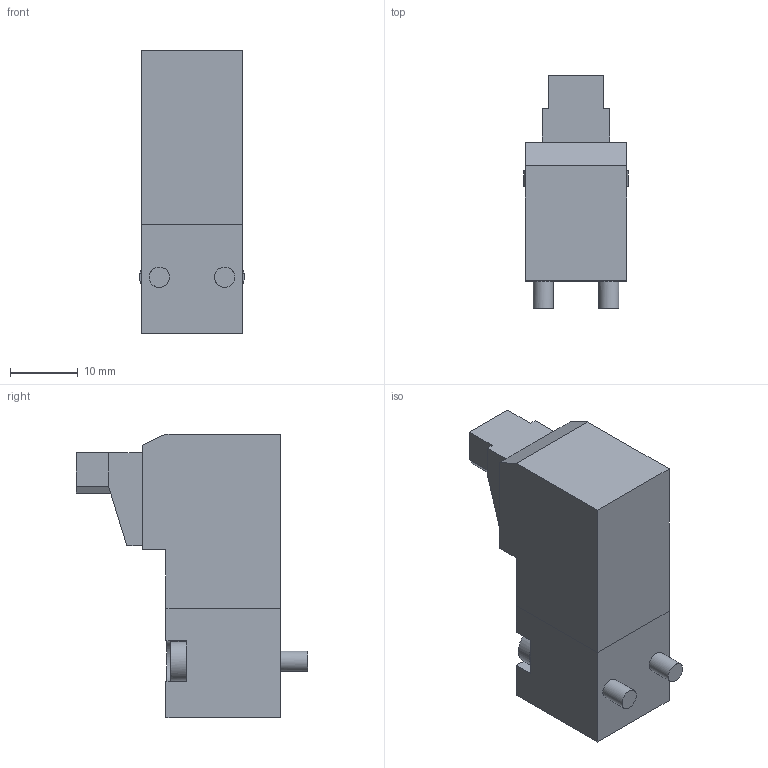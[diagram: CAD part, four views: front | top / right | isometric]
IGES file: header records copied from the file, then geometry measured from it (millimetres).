
Global section: file name: N3##_6#-2; native system: Autodesk Inventor 2014; preprocessor: unknown; author: A. Manieri; organization: Pneumax S.p.A.; date: 20160913.134738; units: millimetre
Bounding box: 15.5 x 34.3 x 42 mm (x, y, z)
Volume: 12224.7 mm3; surface area: 4078.1 mm2
Topology: 1 solids, 1 shells, 87 faces, 227 edges, 148 vertices
Faces by surface type: bspline 87
